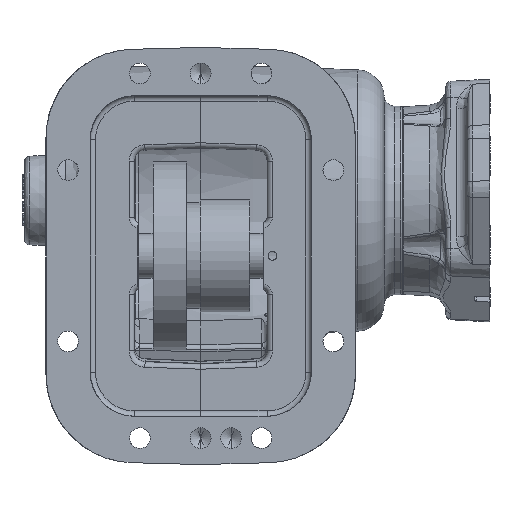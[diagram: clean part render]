
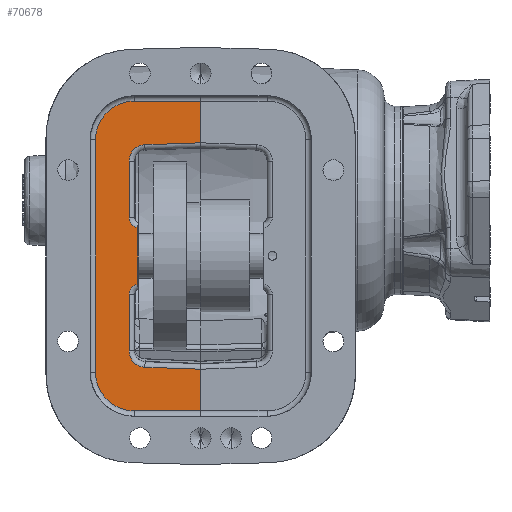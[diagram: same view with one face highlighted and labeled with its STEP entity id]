
A CAD part, front view. The second image highlights one B-rep face of the part: STEP entity #70678.
In plain terms, the highlighted planar face has unit normal (0, -1, 0).
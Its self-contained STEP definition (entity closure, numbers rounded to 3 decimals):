
#6999 = CARTESIAN_POINT ( 'NONE',  ( -65.91, -70.944, 78.158 ) ) ;
#7006 = PLANE ( 'NONE',  #79627 ) ;
#7008 = DIRECTION ( 'NONE',  ( 0., 1., 0. ) ) ;
#7009 = DIRECTION ( 'NONE',  ( 0., 0., 1. ) ) ;
#13275 = LINE ( 'NONE', #28617, #13278 ) ;
#13277 = LINE ( 'NONE', #28628, #13280 ) ;
#13278 = VECTOR ( 'NONE', #28624, 1000. ) ;
#13280 = VECTOR ( 'NONE', #28635, 1000. ) ;
#28617 = CARTESIAN_POINT ( 'NONE',  ( 22.99, -70.944, 78.158 ) ) ;
#28624 = DIRECTION ( 'NONE',  ( 0., 0., -1. ) ) ;
#28628 = CARTESIAN_POINT ( 'NONE',  ( 22.99, -70.944, 78.158 ) ) ;
#28635 = DIRECTION ( 'NONE',  ( 0., 0., -1. ) ) ;
#36250 = CARTESIAN_POINT ( 'NONE',  ( -9.088, -70.944, -103.222 ) ) ;
#36256 = CARTESIAN_POINT ( 'NONE',  ( 22.99, -70.944, -104.342 ) ) ;
#36259 = CARTESIAN_POINT ( 'NONE',  ( -18.158, -70.944, -93.83 ) ) ;
#36262 = CARTESIAN_POINT ( 'NONE',  ( -18.158, -70.944, -61.479 ) ) ;
#36286 = CARTESIAN_POINT ( 'NONE',  ( -13.332, -70.944, -55.516 ) ) ;
#36295 = CARTESIAN_POINT ( 'NONE',  ( -13.332, -70.944, -23.117 ) ) ;
#36301 = CARTESIAN_POINT ( 'NONE',  ( -18.158, -70.944, 15.197 ) ) ;
#36310 = CARTESIAN_POINT ( 'NONE',  ( -18.158, -70.944, -17.155 ) ) ;
#36313 = CARTESIAN_POINT ( 'NONE',  ( -9.088, -70.944, 24.589 ) ) ;
#36337 = CARTESIAN_POINT ( 'NONE',  ( 22.99, -70.944, 25.709 ) ) ;
#36409 = CARTESIAN_POINT ( 'NONE',  ( -37.462, -70.944, -105.992 ) ) ;
#36412 = CARTESIAN_POINT ( 'NONE',  ( 22.99, -70.944, -128.344 ) ) ;
#36418 = CARTESIAN_POINT ( 'NONE',  ( -15.11, -70.944, -128.344 ) ) ;
#36427 = CARTESIAN_POINT ( 'NONE',  ( -37.462, -70.944, 27.358 ) ) ;
#36439 = CARTESIAN_POINT ( 'NONE',  ( -15.11, -70.944, 49.71 ) ) ;
#36451 = CARTESIAN_POINT ( 'NONE',  ( 22.99, -70.944, 49.71 ) ) ;
#46420 = EDGE_CURVE ( 'NONE', #90251, #90247, #73468, .T. ) ;
#46429 = EDGE_CURVE ( 'NONE', #90247, #90253, #73475, .T. ) ;
#46438 = EDGE_CURVE ( 'NONE', #90253, #90255, #73481, .T. ) ;
#46448 = EDGE_CURVE ( 'NONE', #90255, #90269, #73492, .T. ) ;
#46459 = EDGE_CURVE ( 'NONE', #90269, #90275, #73500, .T. ) ;
#46471 = EDGE_CURVE ( 'NONE', #90275, #90286, #73509, .T. ) ;
#46479 = EDGE_CURVE ( 'NONE', #90286, #90280, #73513, .T. ) ;
#46488 = EDGE_CURVE ( 'NONE', #90280, #90288, #73523, .T. ) ;
#46497 = EDGE_CURVE ( 'NONE', #90288, #90306, #73529, .T. ) ;
#46581 = EDGE_CURVE ( 'NONE', #90358, #90364, #73578, .T. ) ;
#46583 = EDGE_CURVE ( 'NONE', #90364, #90360, #73577, .T. ) ;
#46587 = EDGE_CURVE ( 'NONE', #90369, #90358, #73585, .T. ) ;
#46593 = EDGE_CURVE ( 'NONE', #90375, #90369, #73595, .T. ) ;
#46601 = EDGE_CURVE ( 'NONE', #90382, #90375, #73601, .T. ) ;
#60773 = FACE_OUTER_BOUND ( 'NONE', #85733, .T. ) ;
#70678 = ADVANCED_FACE ( 'NONE', ( #60773 ), #7006, .F. ) ;
#72058 = DIRECTION ( 'NONE',  ( 1., 0., 0. ) ) ;
#72061 = CARTESIAN_POINT ( 'NONE',  ( -15.11, -70.944, -105.992 ) ) ;
#72063 = DIRECTION ( 'NONE',  ( 0., -1., 0. ) ) ;
#72065 = DIRECTION ( 'NONE',  ( 0., 0., 1. ) ) ;
#72067 = CARTESIAN_POINT ( 'NONE',  ( 22.99, -70.944, -128.344 ) ) ;
#72083 = CARTESIAN_POINT ( 'NONE',  ( -37.462, -70.944, -105.992 ) ) ;
#72094 = DIRECTION ( 'NONE',  ( 0., 0., -1. ) ) ;
#72131 = CARTESIAN_POINT ( 'NONE',  ( -15.11, -70.944, 27.358 ) ) ;
#72133 = DIRECTION ( 'NONE',  ( 0., -1., 0. ) ) ;
#72135 = DIRECTION ( 'NONE',  ( 0., 0., 1. ) ) ;
#72159 = CARTESIAN_POINT ( 'NONE',  ( -15.11, -70.944, 49.71 ) ) ;
#72171 = DIRECTION ( 'NONE',  ( -1., 0., 0. ) ) ;
#73468 = LINE ( 'NONE', #73685, #73471 ) ;
#73471 = VECTOR ( 'NONE', #73678, 1000. ) ;
#73475 = CIRCLE ( 'NONE', #78657, 9.398 ) ;
#73481 = LINE ( 'NONE', #73755, #73487 ) ;
#73487 = VECTOR ( 'NONE', #73748, 1000. ) ;
#73492 = CIRCLE ( 'NONE', #78665, 6.096 ) ;
#73500 = LINE ( 'NONE', #73835, #73503 ) ;
#73503 = VECTOR ( 'NONE', #73827, 1000. ) ;
#73509 = CIRCLE ( 'NONE', #78678, 6.096 ) ;
#73513 = LINE ( 'NONE', #73948, #73519 ) ;
#73519 = VECTOR ( 'NONE', #73935, 1000. ) ;
#73523 = CIRCLE ( 'NONE', #78685, 9.398 ) ;
#73529 = LINE ( 'NONE', #74053, #73535 ) ;
#73535 = VECTOR ( 'NONE', #74074, 1000. ) ;
#73577 = LINE ( 'NONE', #72067, #73582 ) ;
#73578 = CIRCLE ( 'NONE', #78710, 22.352 ) ;
#73582 = VECTOR ( 'NONE', #72058, 1000. ) ;
#73585 = LINE ( 'NONE', #72083, #73589 ) ;
#73589 = VECTOR ( 'NONE', #72094, 1000. ) ;
#73595 = CIRCLE ( 'NONE', #78716, 22.352 ) ;
#73601 = LINE ( 'NONE', #72159, #73605 ) ;
#73605 = VECTOR ( 'NONE', #72171, 1000. ) ;
#73678 = DIRECTION ( 'NONE',  ( -0.999, 0., 0.035 ) ) ;
#73685 = CARTESIAN_POINT ( 'NONE',  ( -9.088, -70.944, -103.222 ) ) ;
#73727 = CARTESIAN_POINT ( 'NONE',  ( -8.76, -70.944, -93.83 ) ) ;
#73729 = DIRECTION ( 'NONE',  ( 0., 1., 0. ) ) ;
#73730 = DIRECTION ( 'NONE',  ( 0., 0., 1. ) ) ;
#73748 = DIRECTION ( 'NONE',  ( 0., 0., 1. ) ) ;
#73755 = CARTESIAN_POINT ( 'NONE',  ( -18.158, -70.944, -61.479 ) ) ;
#73798 = CARTESIAN_POINT ( 'NONE',  ( -12.062, -70.944, -61.479 ) ) ;
#73800 = DIRECTION ( 'NONE',  ( 0., 1., 0. ) ) ;
#73801 = DIRECTION ( 'NONE',  ( 0., 0., 1. ) ) ;
#73827 = DIRECTION ( 'NONE',  ( 0., 0., 1. ) ) ;
#73835 = CARTESIAN_POINT ( 'NONE',  ( -13.332, -70.944, -23.117 ) ) ;
#73914 = CARTESIAN_POINT ( 'NONE',  ( -12.062, -70.944, -17.155 ) ) ;
#73917 = DIRECTION ( 'NONE',  ( 0., 1., 0. ) ) ;
#73920 = DIRECTION ( 'NONE',  ( 0., 0., 1. ) ) ;
#73935 = DIRECTION ( 'NONE',  ( 0., 0., 1. ) ) ;
#73948 = CARTESIAN_POINT ( 'NONE',  ( -18.158, -70.944, 15.197 ) ) ;
#74019 = CARTESIAN_POINT ( 'NONE',  ( -8.76, -70.944, 15.197 ) ) ;
#74022 = DIRECTION ( 'NONE',  ( 0., 1., 0. ) ) ;
#74025 = DIRECTION ( 'NONE',  ( 0., 0., 1. ) ) ;
#74053 = CARTESIAN_POINT ( 'NONE',  ( 22.884, -70.944, 25.706 ) ) ;
#74074 = DIRECTION ( 'NONE',  ( 0.999, 0., 0.035 ) ) ;
#75800 = ORIENTED_EDGE ( 'NONE', *, *, #117968, .F. ) ;
#75803 = ORIENTED_EDGE ( 'NONE', *, *, #46420, .T. ) ;
#75806 = ORIENTED_EDGE ( 'NONE', *, *, #46429, .T. ) ;
#75809 = ORIENTED_EDGE ( 'NONE', *, *, #46438, .T. ) ;
#75812 = ORIENTED_EDGE ( 'NONE', *, *, #46448, .T. ) ;
#75814 = ORIENTED_EDGE ( 'NONE', *, *, #46459, .T. ) ;
#75817 = ORIENTED_EDGE ( 'NONE', *, *, #46471, .T. ) ;
#75820 = ORIENTED_EDGE ( 'NONE', *, *, #46479, .T. ) ;
#75823 = ORIENTED_EDGE ( 'NONE', *, *, #46488, .T. ) ;
#75826 = ORIENTED_EDGE ( 'NONE', *, *, #46497, .T. ) ;
#75829 = ORIENTED_EDGE ( 'NONE', *, *, #117971, .F. ) ;
#75832 = ORIENTED_EDGE ( 'NONE', *, *, #46601, .T. ) ;
#75835 = ORIENTED_EDGE ( 'NONE', *, *, #46593, .T. ) ;
#75837 = ORIENTED_EDGE ( 'NONE', *, *, #46587, .T. ) ;
#75840 = ORIENTED_EDGE ( 'NONE', *, *, #46581, .T. ) ;
#75843 = ORIENTED_EDGE ( 'NONE', *, *, #46583, .T. ) ;
#78657 = AXIS2_PLACEMENT_3D ( 'NONE', #73727, #73729, #73730 ) ;
#78665 = AXIS2_PLACEMENT_3D ( 'NONE', #73798, #73800, #73801 ) ;
#78678 = AXIS2_PLACEMENT_3D ( 'NONE', #73914, #73917, #73920 ) ;
#78685 = AXIS2_PLACEMENT_3D ( 'NONE', #74019, #74022, #74025 ) ;
#78710 = AXIS2_PLACEMENT_3D ( 'NONE', #72061, #72063, #72065 ) ;
#78716 = AXIS2_PLACEMENT_3D ( 'NONE', #72131, #72133, #72135 ) ;
#79627 = AXIS2_PLACEMENT_3D ( 'NONE', #6999, #7008, #7009 ) ;
#85733 = EDGE_LOOP ( 'NONE', ( #75800, #75803, #75806, #75809, #75812, #75814, #75817, #75820, #75823, #75826, #75829, #75832, #75835, #75837, #75840, #75843 ) ) ;
#90247 = VERTEX_POINT ( 'NONE', #36250 ) ;
#90251 = VERTEX_POINT ( 'NONE', #36256 ) ;
#90253 = VERTEX_POINT ( 'NONE', #36259 ) ;
#90255 = VERTEX_POINT ( 'NONE', #36262 ) ;
#90269 = VERTEX_POINT ( 'NONE', #36286 ) ;
#90275 = VERTEX_POINT ( 'NONE', #36295 ) ;
#90280 = VERTEX_POINT ( 'NONE', #36301 ) ;
#90286 = VERTEX_POINT ( 'NONE', #36310 ) ;
#90288 = VERTEX_POINT ( 'NONE', #36313 ) ;
#90306 = VERTEX_POINT ( 'NONE', #36337 ) ;
#90358 = VERTEX_POINT ( 'NONE', #36409 ) ;
#90360 = VERTEX_POINT ( 'NONE', #36412 ) ;
#90364 = VERTEX_POINT ( 'NONE', #36418 ) ;
#90369 = VERTEX_POINT ( 'NONE', #36427 ) ;
#90375 = VERTEX_POINT ( 'NONE', #36439 ) ;
#90382 = VERTEX_POINT ( 'NONE', #36451 ) ;
#117968 = EDGE_CURVE ( 'NONE', #90251, #90360, #13275, .T. ) ;
#117971 = EDGE_CURVE ( 'NONE', #90382, #90306, #13277, .T. ) ;
